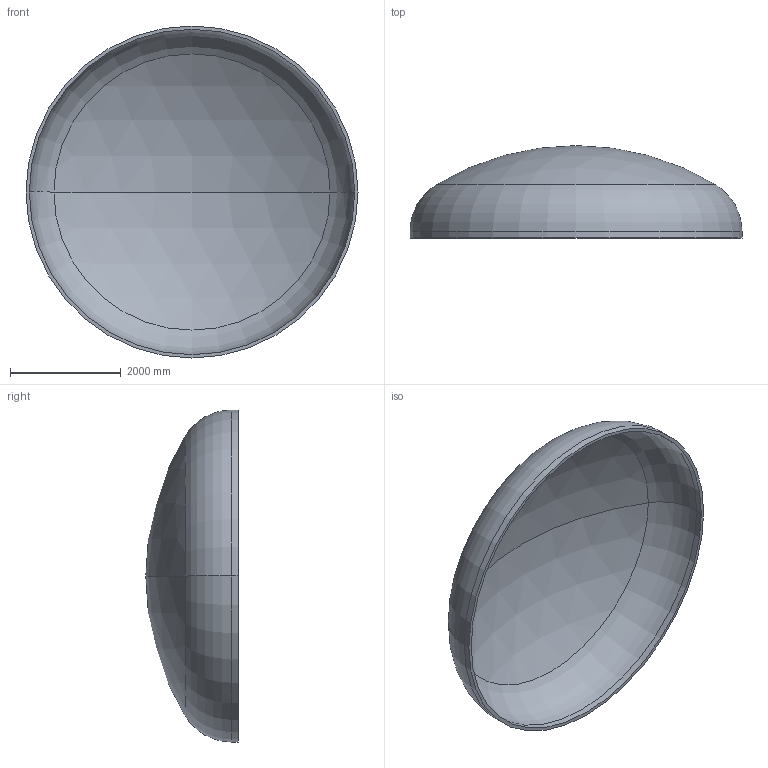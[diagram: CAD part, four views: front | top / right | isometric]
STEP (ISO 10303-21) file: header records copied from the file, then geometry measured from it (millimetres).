
FILE_DESCRIPTION (( 'STEP AP203' ), '1' );
FILE_NAME ('DIN 28013 Korbbogenform_-_Boden DIN 28013 - 6000 x 120 - I - s=60.step', '2016-07-04T10:37:40', ( '' ), ( '' ), 'SwSTEP 2.0', 'SolidWorks 2013', '' );
FILE_SCHEMA (( 'CONFIG_CONTROL_DESIGN' ));
Length unit declared in the file: millimetre
Products named in the file (1): DIN 28013 Korbbogenform_-_Boden DIN 28013 - 6000 x 120 - I - s=60
Bounding box: 6000 x 1670.11 x 6000 mm (x, y, z)
Volume: 2453557040.7 mm3; surface area: 82912407 mm2
Topology: 1 solids, 1 shells, 13 faces, 24 edges, 14 vertices
Faces by surface type: torus 4, cylinder 4, sphere 4, plane 1
Entity records: 407 total; most frequent: DIRECTION 72, CARTESIAN_POINT 52, ORIENTED_EDGE 48, AXIS2_PLACEMENT_3D 34, EDGE_CURVE 24, CIRCLE 20, VERTEX_POINT 14, EDGE_LOOP 14
